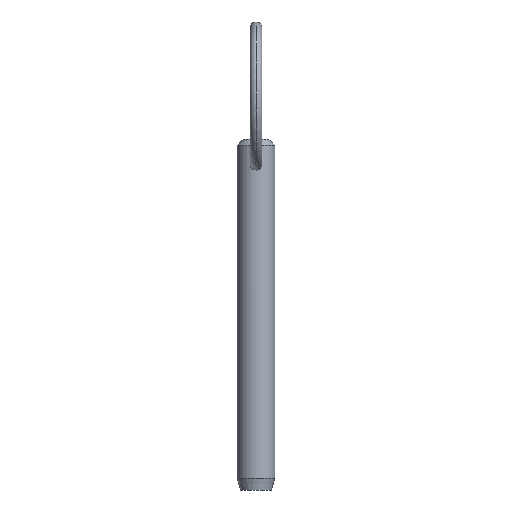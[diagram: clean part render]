
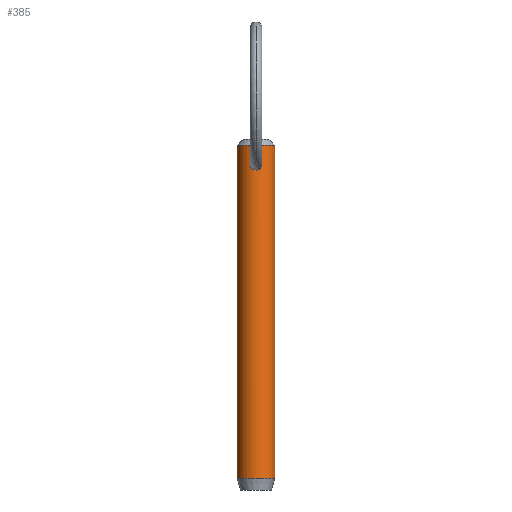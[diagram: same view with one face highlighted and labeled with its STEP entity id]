
A CAD part, front view. The second image highlights one B-rep face of the part: STEP entity #385.
In plain terms, the highlighted cylindrical face has radius 3.175 mm (diameter 6.35 mm), a partial arc.
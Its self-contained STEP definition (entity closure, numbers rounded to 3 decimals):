
#5 = CARTESIAN_POINT ( 'NONE',  ( 0.515, -3.135, 46.23 ) ) ;
#7 = EDGE_CURVE ( 'NONE', #451, #277, #230, .T. ) ;
#14 = ORIENTED_EDGE ( 'NONE', *, *, #151, .T. ) ;
#19 = VERTEX_POINT ( 'NONE', #458 ) ;
#27 = CARTESIAN_POINT ( 'NONE',  ( -0.882, -3.055, 47.66 ) ) ;
#31 = CARTESIAN_POINT ( 'NONE',  ( -0.629, -3.114, 46.305 ) ) ;
#39 = ORIENTED_EDGE ( 'NONE', *, *, #173, .T. ) ;
#51 = VECTOR ( 'NONE', #330, 1000. ) ;
#59 = B_SPLINE_CURVE_WITH_KNOTS ( 'NONE', 3,
 ( #474, #278, #318, #388, #98, #164, #425, #202, #246, #255, #296, #405, #5, #73, #368, #338 ),
 .UNSPECIFIED., .F., .F.,
 ( 4, 2, 2, 2, 2, 2, 2, 4 ),
 ( 0.003, 0.003, 0.004, 0.004, 0.005, 0.005, 0.006, 0.006 ),
 .UNSPECIFIED. ) ;
#61 = AXIS2_PLACEMENT_3D ( 'NONE', #160, #192, #423 ) ;
#66 = B_SPLINE_CURVE_WITH_KNOTS ( 'NONE', 3,
 ( #428, #169, #247, #396, #31, #208, #96, #99, #466, #476, #27, #174, #390, #398, #353, #253, #433, #283 ),
 .UNSPECIFIED., .F., .F.,
 ( 4, 2, 2, 2, 2, 2, 2, 2, 4 ),
 ( 0.006, 0.006, 0.007, 0.007, 0.008, 0.008, 0.009, 0.009, 0.009 ),
 .UNSPECIFIED. ) ;
#73 = CARTESIAN_POINT ( 'NONE',  ( 0.268, -3.166, 46.129 ) ) ;
#79 = EDGE_CURVE ( 'NONE', #451, #123, #221, .T. ) ;
#96 = CARTESIAN_POINT ( 'NONE',  ( -0.888, -3.049, 46.609 ) ) ;
#98 = CARTESIAN_POINT ( 'NONE',  ( 0.617, -3.116, 47.951 ) ) ;
#99 = CARTESIAN_POINT ( 'NONE',  ( -0.983, -3.02, 46.859 ) ) ;
#101 = ORIENTED_EDGE ( 'NONE', *, *, #431, .T. ) ;
#104 = DIRECTION ( 'NONE',  ( 0., 0., -1. ) ) ;
#116 = CYLINDRICAL_SURFACE ( 'NONE', #256, 3.175 ) ;
#123 = VERTEX_POINT ( 'NONE', #393 ) ;
#130 = EDGE_LOOP ( 'NONE', ( #39, #14 ) ) ;
#134 = DIRECTION ( 'NONE',  ( 0., 0., 1. ) ) ;
#137 = CARTESIAN_POINT ( 'NONE',  ( -3.175, 0., -5.92 ) ) ;
#141 = CARTESIAN_POINT ( 'NONE',  ( 0., -3.175, 46.103 ) ) ;
#151 = EDGE_CURVE ( 'NONE', #226, #19, #66, .T. ) ;
#154 = ORIENTED_EDGE ( 'NONE', *, *, #79, .F. ) ;
#155 = VERTEX_POINT ( 'NONE', #137 ) ;
#160 = CARTESIAN_POINT ( 'NONE',  ( 0., 0., 50.28 ) ) ;
#164 = CARTESIAN_POINT ( 'NONE',  ( 0.884, -3.055, 47.657 ) ) ;
#169 = CARTESIAN_POINT ( 'NONE',  ( -0.134, -3.175, 46.103 ) ) ;
#173 = EDGE_CURVE ( 'NONE', #19, #226, #59, .T. ) ;
#174 = CARTESIAN_POINT ( 'NONE',  ( -0.615, -3.116, 47.953 ) ) ;
#175 = AXIS2_PLACEMENT_3D ( 'NONE', #180, #134, #290 ) ;
#176 = CARTESIAN_POINT ( 'NONE',  ( 0., 0., 45.7 ) ) ;
#177 = DIRECTION ( 'NONE',  ( 0., 0., -1. ) ) ;
#180 = CARTESIAN_POINT ( 'NONE',  ( 0., 0., -5.92 ) ) ;
#190 = FACE_BOUND ( 'NONE', #130, .T. ) ;
#192 = DIRECTION ( 'NONE',  ( 0., 0., -1. ) ) ;
#202 = CARTESIAN_POINT ( 'NONE',  ( 1.004, -3.012, 46.993 ) ) ;
#207 = VECTOR ( 'NONE', #104, 1000. ) ;
#208 = CARTESIAN_POINT ( 'NONE',  ( -0.815, -3.07, 46.495 ) ) ;
#220 = CARTESIAN_POINT ( 'NONE',  ( -3.175, 0., 50.28 ) ) ;
#221 = LINE ( 'NONE', #250, #207 ) ;
#226 = VERTEX_POINT ( 'NONE', #141 ) ;
#230 = CIRCLE ( 'NONE', #61, 3.175 ) ;
#232 = EDGE_LOOP ( 'NONE', ( #154, #273, #371, #101 ) ) ;
#246 = CARTESIAN_POINT ( 'NONE',  ( 0.982, -3.02, 46.858 ) ) ;
#247 = CARTESIAN_POINT ( 'NONE',  ( -0.269, -3.166, 46.129 ) ) ;
#248 = EDGE_CURVE ( 'NONE', #277, #155, #379, .T. ) ;
#250 = CARTESIAN_POINT ( 'NONE',  ( 3.175, 0., 45.7 ) ) ;
#253 = CARTESIAN_POINT ( 'NONE',  ( -0.133, -3.173, 48.174 ) ) ;
#255 = CARTESIAN_POINT ( 'NONE',  ( 0.888, -3.049, 46.609 ) ) ;
#256 = AXIS2_PLACEMENT_3D ( 'NONE', #176, #177, #475 ) ;
#273 = ORIENTED_EDGE ( 'NONE', *, *, #7, .T. ) ;
#277 = VERTEX_POINT ( 'NONE', #220 ) ;
#278 = CARTESIAN_POINT ( 'NONE',  ( 0.134, -3.175, 48.182 ) ) ;
#283 = CARTESIAN_POINT ( 'NONE',  ( 0., -3.175, 48.182 ) ) ;
#290 = DIRECTION ( 'NONE',  ( -1., 0., 0. ) ) ;
#291 = CARTESIAN_POINT ( 'NONE',  ( -3.175, 0., 45.7 ) ) ;
#296 = CARTESIAN_POINT ( 'NONE',  ( 0.815, -3.07, 46.495 ) ) ;
#318 = CARTESIAN_POINT ( 'NONE',  ( 0.269, -3.166, 48.15 ) ) ;
#330 = DIRECTION ( 'NONE',  ( 0., 0., -1. ) ) ;
#338 = CARTESIAN_POINT ( 'NONE',  ( 0., -3.175, 46.103 ) ) ;
#353 = CARTESIAN_POINT ( 'NONE',  ( -0.264, -3.165, 48.144 ) ) ;
#365 = CARTESIAN_POINT ( 'NONE',  ( 3.175, 0., 50.28 ) ) ;
#368 = CARTESIAN_POINT ( 'NONE',  ( 0.134, -3.175, 46.103 ) ) ;
#371 = ORIENTED_EDGE ( 'NONE', *, *, #248, .T. ) ;
#375 = FACE_OUTER_BOUND ( 'NONE', #232, .T. ) ;
#378 = CIRCLE ( 'NONE', #175, 3.175 ) ;
#379 = LINE ( 'NONE', #291, #51 ) ;
#385 = ADVANCED_FACE ( 'NONE', ( #375, #190 ), #116, .T. ) ;
#388 = CARTESIAN_POINT ( 'NONE',  ( 0.51, -3.136, 48.034 ) ) ;
#390 = CARTESIAN_POINT ( 'NONE',  ( -0.508, -3.136, 48.035 ) ) ;
#393 = CARTESIAN_POINT ( 'NONE',  ( 3.175, 0., -5.92 ) ) ;
#396 = CARTESIAN_POINT ( 'NONE',  ( -0.516, -3.135, 46.231 ) ) ;
#398 = CARTESIAN_POINT ( 'NONE',  ( -0.328, -3.159, 48.121 ) ) ;
#405 = CARTESIAN_POINT ( 'NONE',  ( 0.628, -3.114, 46.304 ) ) ;
#423 = DIRECTION ( 'NONE',  ( 1., 0., 0. ) ) ;
#425 = CARTESIAN_POINT ( 'NONE',  ( 0.992, -3.016, 47.394 ) ) ;
#428 = CARTESIAN_POINT ( 'NONE',  ( 0., -3.175, 46.103 ) ) ;
#431 = EDGE_CURVE ( 'NONE', #155, #123, #378, .T. ) ;
#433 = CARTESIAN_POINT ( 'NONE',  ( -0.067, -3.175, 48.182 ) ) ;
#451 = VERTEX_POINT ( 'NONE', #365 ) ;
#458 = CARTESIAN_POINT ( 'NONE',  ( 0., -3.175, 48.182 ) ) ;
#466 = CARTESIAN_POINT ( 'NONE',  ( -1.004, -3.012, 46.995 ) ) ;
#474 = CARTESIAN_POINT ( 'NONE',  ( 0., -3.175, 48.182 ) ) ;
#475 = DIRECTION ( 'NONE',  ( -1., 0., 0. ) ) ;
#476 = CARTESIAN_POINT ( 'NONE',  ( -0.991, -3.016, 47.396 ) ) ;
